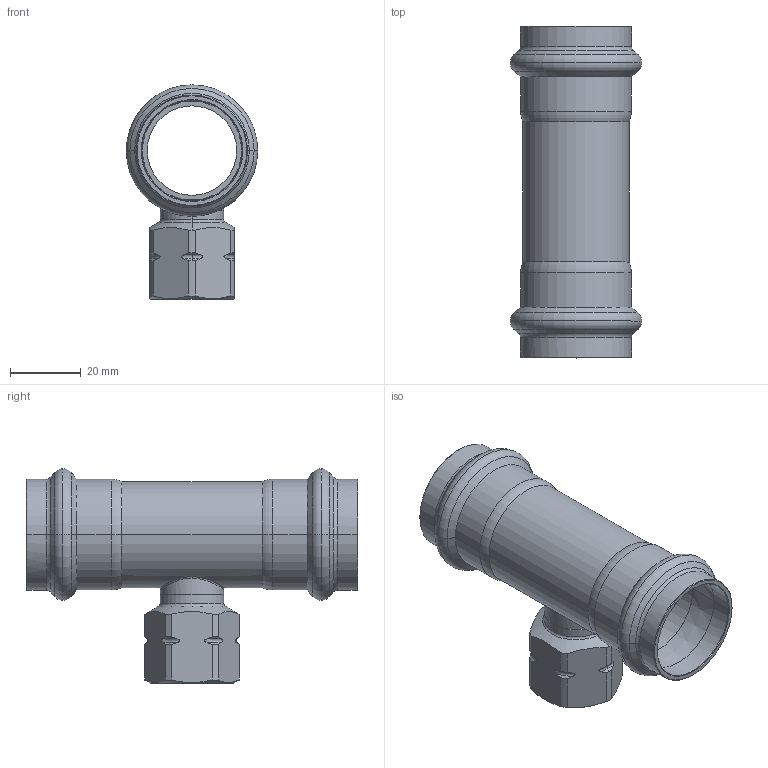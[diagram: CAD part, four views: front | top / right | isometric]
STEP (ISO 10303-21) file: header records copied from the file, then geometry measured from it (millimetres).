
FILE_DESCRIPTION(('CoCreate Modeling STEP Export'),'2;1');
FILE_NAME('8130GVW281228.stp','2013-02-12T11:43:04',(''),(''),'CoCreate Modeling STEP processor for AP214 (Solid Model)','CoCreate Modeling 17.00A 17-Jun-2010 (C) Parametric Technology GmbH','');
FILE_SCHEMA(('AUTOMOTIVE_DESIGN { 1 0 10303 214 1 1 1 1 }'));
Length unit declared in the file: millimetre
Products named in the file (2): 8130GVW281228
Assembly tree (1 placements, depth 2):
  8130GVW281228
    8130GVW281228
Bounding box: 37.2 x 93.81 x 60.6 mm (x, y, z)
Volume: 21356.6 mm3; surface area: 22282.7 mm2
Topology: 1 solids, 1 shells, 147 faces, 362 edges, 222 vertices
Faces by surface type: cylinder 46, cone 46, torus 38, plane 13, bspline 4
Entity records: 9458 total; most frequent: CARTESIAN_POINT 6580, ORIENTED_EDGE 724, DIRECTION 436, EDGE_CURVE 362, VERTEX_POINT 222, AXIS2_PLACEMENT_3D 178, EDGE_LOOP 156, FACE_OUTER_BOUND 147
